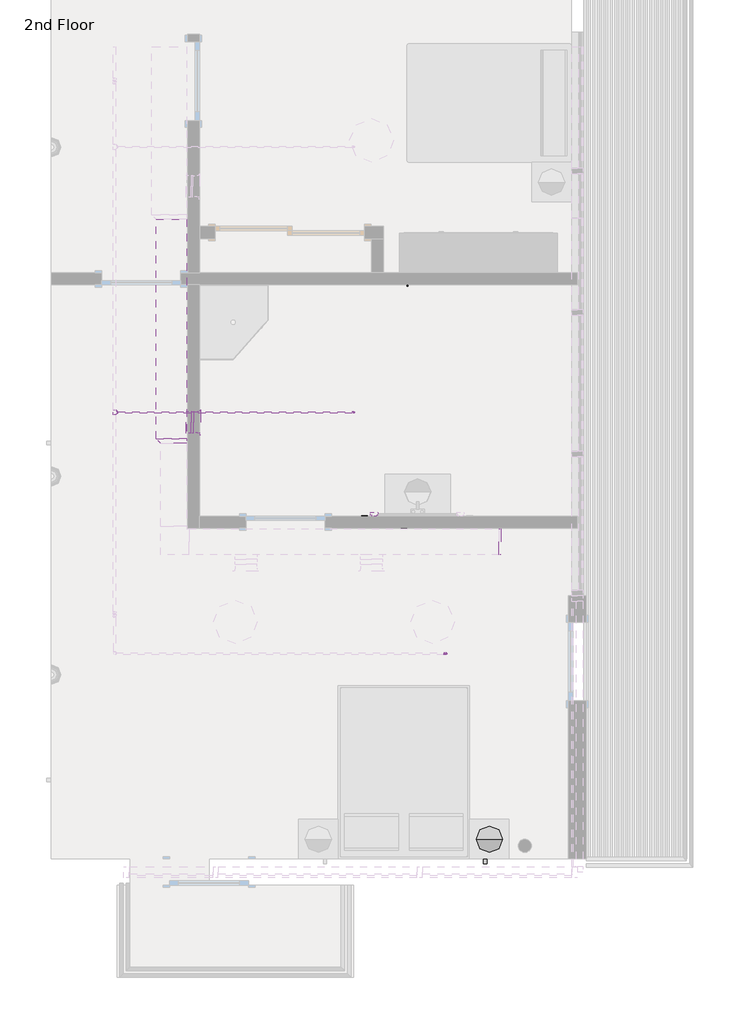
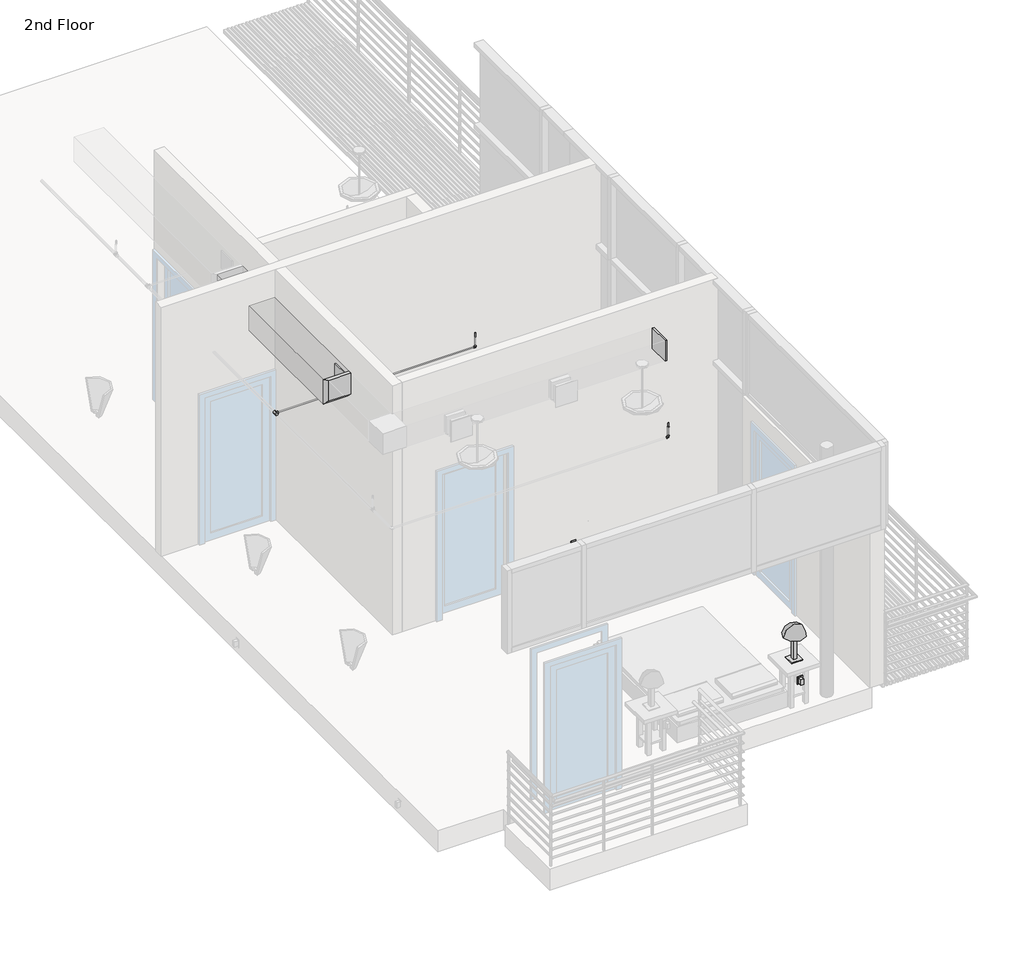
# One storey, part 3 of 7: 25 pipe segments, 22 pipe fittings, 4 proxies, 3 duct fittings, 2 duct segments, 2 fire suppression terminals, 2 light fixtures, 1 air terminal.
"""IFC4 building model written with IfcOpenShell, lengths in millimetres."""

from ifc_helpers import new_model, si_unit, point, frame, frame_2d, origin, place, context, project, spatial, polyline, circle_curve, trimmed, segment, composite_curve, outline, extrude, transform, mapped, element, save
from ifc_brep_helpers import plane_surface, cylinder_surface, advanced_brep
from components import air_terminal_37217d21, receptacle_gfci_367a9a66, rectangular_duct_endcap_standard_037dc688, rectangular_duct_takeoff_sidewall_standard_de4d9739, rectangular_duct_transition_standard_52f7afad, fire_suppression_terminal_f250fbbb, table_lamp_hemispheric_60w_120v_02721d88, bow_series_bow_series_fd234733, pipe_elbow_standard_aad62f2d, pipe_elbow1_standard_2_feaaf02c, pipe_pvc_bend_standard_4ddb6c24, pipe_pvc_bend_standard_e3b88754, pipe_pvc_bend_standard_81afda98, pipe_pvc_p_trap_standard_84067bf2, pipe_pvc_short_sanitary_tee1_standard_2_ace3c86c, pipe_pvc_transition_eccentric1_standard_2_8e0969e4, pipe_tee_standard_1a6ca384, pipe_tee_standard_feafe2f1, pipe_transition_eccentric_standard_3095b3c8, pipe_transition_eccentric_standard_a9eec213

model = new_model("IFC4")

# Units and contexts
model_context = context("Model", 3, world=origin())
ifc_project = project(units=[si_unit("LENGTHUNIT", "METRE", prefix="MILLI")], contexts=[model_context])

# Site, building, storey
site = spatial("IfcSite", under=ifc_project)
building = spatial("IfcBuilding", under=site)
storey = spatial("IfcBuildingStorey", under=building, Name="2nd Floor", Elevation=7924.8)

# Air terminal
placement = place(None, origin())
air_terminal_shape = air_terminal_37217d21(model_context)
element("IfcAirTerminal", 1, ObjectType="Sidewall Diffuser : 10\" x 10\"", at=placement, inside=storey, context=model_context, shape_type="MappedRepresentation", body=[
    mapped(air_terminal_shape, transform((-2742.9604947, -1629.0689983, 10972.8), x_axis=(0.0, 1.0, 0.0), y_axis=(-1.0, 0.0, 0.0), z_axis=(0.0, 0.0, 1.0))),
])

# Proxies
receptacle_gfci_shape = receptacle_gfci_367a9a66(model_context)
element("IfcBuildingElementProxy", 2, Name="Receptacle : Standard", ObjectType="Receptacle : Standard", at=placement, inside=storey, context=model_context, shape_type="MappedRepresentation", body=[
    mapped(receptacle_gfci_shape, transform((-837.9604947, -2714.9189983, 8382.0), x_axis=(-1.0, 0.0, 0.0), y_axis=(0.0, 0.0, 1.0), z_axis=(0.0, 1.0, 0.0))),
])
element("IfcBuildingElementProxy", 3, Name="Receptacle : Standard", ObjectType="Receptacle : Standard", at=placement, inside=storey, context=model_context, shape_type="MappedRepresentation", body=[
    mapped(receptacle_gfci_shape, transform((562.1560388, -6684.540357, 8382.0), x_axis=(1.0, 0.0, 0.0), y_axis=(0.0, 0.0, -1.0), z_axis=(0.0, 1.0, 0.0))),
])
element("IfcBuildingElementProxy", 4, Name="Receptacle : Standard", ObjectType="Receptacle : Standard", at=placement, inside=storey, context=model_context, shape_type="MappedRepresentation", body=[
    mapped(receptacle_gfci_shape, transform((1527.3560388, -5617.740357, 8382.0), x_axis=(0.0, -1.0, 0.0), y_axis=(0.0, 0.0, 1.0), z_axis=(-1.0, 0.0, 0.0))),
])
element("IfcBuildingElementProxy", 5, Name="Receptacle : Standard", ObjectType="Receptacle : Standard", at=placement, inside=storey, context=model_context, shape_type="MappedRepresentation", body=[
    mapped(receptacle_gfci_shape, transform((-380.7604947, -2854.6189983, 8382.0), x_axis=(1.0, 0.0, 0.0), y_axis=(0.0, 0.0, 1.0), z_axis=(0.0, -1.0, 0.0))),
])

# Duct fittings
rectangular_duct_endcap_standard_shape = rectangular_duct_endcap_standard_037dc688(model_context)
element("IfcDuctFitting", 6, ObjectType="Rectangular Duct Endcap : Standard", at=placement, inside=storey, context=model_context, shape_type="MappedRepresentation", body=[
    mapped(rectangular_duct_endcap_standard_shape, transform((718.6069436, -3013.3689983, 11023.6), x_axis=(1.0, 0.0, 0.0), y_axis=(0.0, 1.0, 0.0), z_axis=(0.0, 0.0, 1.0))),
])
rectangular_duct_takeoff_sidewall_standard_shape = rectangular_duct_takeoff_sidewall_standard_de4d9739(model_context)
element("IfcDuctFitting", 7, ObjectType="Rectangular Duct Takeoff - Sidewall : Standard", at=placement, inside=storey, context=model_context, shape_type="MappedRepresentation", body=[
    mapped(rectangular_duct_takeoff_sidewall_standard_shape, transform((-2895.3604947, -1629.0689983, 10972.8), x_axis=(1.0, 0.0, 0.0), y_axis=(0.0, -1.0, 0.0), z_axis=(0.0, 0.0, -1.0))),
])
rectangular_duct_transition_standard_shape = rectangular_duct_transition_standard_52f7afad(model_context)
element("IfcDuctFitting", 8, ObjectType="Rectangular Duct Transition : Standard", at=placement, inside=storey, context=model_context, shape_type="MappedRepresentation", body=[
    mapped(rectangular_duct_transition_standard_shape, transform((-3073.1604947, -1819.5689983, 10998.2), x_axis=(0.0, -1.0, 0.0), y_axis=(-1.0, 0.0, 0.0), z_axis=(0.0, 0.0, -1.0))),
])

# Duct segments
element("IfcDuctSegment", 9, ObjectType="Mitered Elbows / Taps Sidewall", at=placement, inside=storey, context=model_context, shape_type="SweptSolid", body=[
    extrude(outline(polyline([(-2844.5604947, -1756.0689983), (-2844.5604947, -1502.0689983), (-2819.1604947, -1502.0689983), (-2819.1604947, -1756.0689983), (-2844.5604947, -1756.0689983)])), frame((0.0, 0.0, 10845.8), z_axis=(0.0, 0.0, 1.0), x_axis=(1.0, 0.0, 0.0)), (0.0, 0.0, 1.0), 254.0),
])
element("IfcDuctSegment", 10, ObjectType="Mitered Elbows / Tees", at=placement, inside=storey, context=model_context, shape_type="SweptSolid", body=[
    extrude(outline(polyline([(-3250.9604947, 720.4310017), (-2895.3604947, 720.4310017), (-2895.3604947, -1819.5689983), (-3250.9604947, -1819.5689983), (-3250.9604947, 720.4310017)])), frame((0.0, 0.0, 10820.4), z_axis=(0.0, 0.0, 1.0), x_axis=(1.0, 0.0, 0.0)), (0.0, 0.0, 1.0), 355.6),
])

# Fire suppression terminals
fire_suppression_terminal_shape = fire_suppression_terminal_f250fbbb(model_context)
element("IfcFireSuppressionTerminal", 11, ObjectType="Sprinkler - Upright : 1/2\" Upright", at=placement, inside=storey, context=model_context, shape_type="MappedRepresentation", body=[
    mapped(fire_suppression_terminal_shape, transform((104.9560388, -4308.7689983, 10820.4), x_axis=(1.0, 0.0, 0.0), y_axis=(0.0, 1.0, 0.0), z_axis=(0.0, 0.0, 1.0))),
])
element("IfcFireSuppressionTerminal", 12, ObjectType="Sprinkler - Upright : 1/2\" Upright", at=placement, inside=storey, context=model_context, shape_type="MappedRepresentation", body=[
    mapped(fire_suppression_terminal_shape, transform((-961.8439612, -1514.6424327, 10820.4), x_axis=(1.0, 0.0, 0.0), y_axis=(0.0, 1.0, 0.0), z_axis=(0.0, 0.0, 1.0))),
])

# Light fixtures
table_lamp_hemispheric_60w_120v_shape = table_lamp_hemispheric_60w_120v_02721d88(model_context)
element("IfcLightFixture", 13, ObjectType="Table Lamp - Hemispheric : 60W - 120V", at=placement, inside=storey, context=model_context, shape_type="MappedRepresentation", body=[
    mapped(table_lamp_hemispheric_60w_120v_shape, transform((609.8395053, -6455.940357, 8521.7), x_axis=(1.0, 0.0, 0.0), y_axis=(0.0, 1.0, 0.0), z_axis=(0.0, 0.0, 1.0))),
])
bow_series_bow_series_shape = bow_series_bow_series_fd234733(model_context)
element("IfcLightFixture", 14, ObjectType="bow series : bow series", at=placement, inside=storey, context=model_context, shape_type="MappedRepresentation", body=[
    mapped(bow_series_bow_series_shape, transform((-724.5190612, -2679.1938983, 9144.0), x_axis=(-1.0, 0.0, 0.0), y_axis=(0.0, -1.0, 0.0), z_axis=(0.0, 0.0, 1.0))),
])

# Pipe fittings
pipe_elbow_standard_shape = pipe_elbow_standard_aad62f2d(model_context)
element("IfcPipeFitting", 15, ObjectType="Pipe Elbow : Standard", at=placement, inside=storey, context=model_context, shape_type="MappedRepresentation", body=[
    mapped(pipe_elbow_standard_shape, transform((-322.9107885, -2761.2999309, 8610.6), x_axis=(0.0, -1.0, 0.0), y_axis=(0.0, 0.0, -1.0), z_axis=(1.0, 0.0, 0.0))),
])
element("IfcPipeFitting", 16, ObjectType="Pipe Elbow1 : Standard 2", at=placement, inside=storey, context=model_context, shape_type="MappedRepresentation", body=[
    mapped(pipe_elbow_standard_shape, transform((-961.8439612, -1514.6424327, 10668.0), x_axis=(0.0, 0.0, -1.0), y_axis=(-1.0, 0.0, 0.0), z_axis=(0.0, 1.0, 0.0))),
])
pipe_elbow1_standard_2_shape = pipe_elbow1_standard_2_feaaf02c(model_context)
element("IfcPipeFitting", 17, ObjectType="Pipe Elbow1 : Standard 2", at=placement, inside=storey, context=model_context, shape_type="MappedRepresentation", body=[
    mapped(pipe_elbow1_standard_2_shape, transform((104.9560388, -4308.7689983, 10668.0), x_axis=(0.0, 0.0, -1.0), y_axis=(-1.0, 0.0, 0.0), z_axis=(0.0, 1.0, 0.0))),
])
pipe_pvc_bend_standard_shape = pipe_pvc_bend_standard_4ddb6c24(model_context)
element("IfcPipeFitting", 18, ObjectType="Pipe PVC Bend : Standard", at=placement, inside=storey, context=model_context, shape_type="MappedRepresentation", body=[
    mapped(pipe_pvc_bend_standard_shape, transform((-969.7619391, -481.6340464, 7449.4767229), x_axis=(0.9999457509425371, 0.0, 0.010416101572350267), y_axis=(-0.010416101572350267, 0.0, 0.9999457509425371), z_axis=(0.0, -1.0, 0.0))),
])
element("IfcPipeFitting", 19, ObjectType="Pipe PVC Bend : Standard", at=placement, inside=storey, context=model_context, shape_type="MappedRepresentation", body=[
    mapped(pipe_pvc_bend_standard_shape, transform((-858.2942258, -481.6340464, 7562.1116056), x_axis=(0.7034144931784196, 0.0, 0.7107798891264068), y_axis=(0.7107798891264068, 0.0, -0.7034144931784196), z_axis=(0.0, 1.0, 0.0))),
])
pipe_pvc_bend_standard_2_shape = pipe_pvc_bend_standard_e3b88754(model_context)
element("IfcPipeFitting", 20, ObjectType="Pipe PVC Bend : Standard", at=placement, inside=storey, context=model_context, shape_type="MappedRepresentation", body=[
    mapped(pipe_pvc_bend_standard_2_shape, transform((-221.3107836, -2435.4342787, 7477.6672389), x_axis=(0.0, 0.0, -1.0), y_axis=(-1.0, 0.0, 0.0), z_axis=(0.0, 1.0, 0.0))),
])
pipe_pvc_bend_standard_3_shape = pipe_pvc_bend_standard_81afda98(model_context)
element("IfcPipeFitting", 21, ObjectType="Pipe PVC Bend : Standard", at=placement, inside=storey, context=model_context, shape_type="MappedRepresentation", body=[
    mapped(pipe_pvc_bend_standard_3_shape, transform((-968.7575713, -2148.4074929, 7468.2343088), x_axis=(0.9997831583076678, 8.132927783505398e-07, 0.02082393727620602), y_axis=(-0.02082393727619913, -1.6939738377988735e-08, 0.9997831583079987), z_axis=(8.134691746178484e-07, -0.9999999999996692, 0.0))),
])
element("IfcPipeFitting", 22, ObjectType="Pipe PVC Bend : Standard", at=placement, inside=storey, context=model_context, shape_type="MappedRepresentation", body=[
    mapped(pipe_pvc_bend_standard_3_shape, transform((-877.1721277, -2148.4074184, 7561.7471994), x_axis=(0.6997056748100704, 5.69188886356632e-07, 0.714431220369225), y_axis=(0.7144312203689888, 5.811677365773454e-07, -0.699705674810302), z_axis=(-8.134690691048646e-07, 0.9999999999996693, 0.0))),
])
pipe_pvc_p_trap_standard_shape = pipe_pvc_p_trap_standard_84067bf2(model_context)
element("IfcPipeFitting", 23, ObjectType="Pipe PVC P-Trap : Standard", at=placement, inside=storey, context=model_context, shape_type="MappedRepresentation", body=[
    mapped(pipe_pvc_p_trap_standard_shape, transform((-212.8482555, -481.6450454, 7566.025), x_axis=(1.0, 0.0, 0.0), y_axis=(0.0, 1.0, 0.0), z_axis=(0.0, 0.0, 1.0))),
])
pipe_pvc_short_sanitary_tee1_standard_2_shape = pipe_pvc_short_sanitary_tee1_standard_2_ace3c86c(model_context)
element("IfcPipeFitting", 24, ObjectType="Pipe PVC Short Sanitary Tee1 : Standard 2", at=placement, inside=storey, context=model_context, shape_type="MappedRepresentation", body=[
    mapped(pipe_pvc_short_sanitary_tee1_standard_2_shape, transform((-1102.7042057, -481.6340464, 7448.0919076), x_axis=(0.0, -0.999945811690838, 0.010410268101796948), y_axis=(0.9999457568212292, 0.00010842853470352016, 0.01041497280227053), z_axis=(-0.010415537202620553, 0.01040970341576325, 0.9998915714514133))),
])
pipe_pvc_transition_eccentric1_standard_2_shape = pipe_pvc_transition_eccentric1_standard_2_8e0969e4(model_context)
element("IfcPipeFitting", 25, ObjectType="Pipe PVC Transition Eccentric1 : Standard 2", at=placement, inside=storey, context=model_context, shape_type="MappedRepresentation", body=[
    mapped(pipe_pvc_transition_eccentric1_standard_2_shape, transform((-844.2144215, -53.745698, 7213.6), x_axis=(0.0, 1.0, 0.0), y_axis=(1.0, 0.0, 0.0), z_axis=(0.0, 0.0, -1.0))),
])
pipe_tee_standard_shape = pipe_tee_standard_1a6ca384(model_context)
element("IfcPipeFitting", 26, ObjectType="Pipe Tee : Standard", at=placement, inside=storey, context=model_context, shape_type="MappedRepresentation", body=[
    mapped(pipe_tee_standard_shape, transform((-119.7107885, -2786.7000325, 7315.2), x_axis=(1.0, 0.0, 0.0), y_axis=(0.0, 0.0, -1.0), z_axis=(0.0, 1.0, 0.0))),
])
element("IfcPipeFitting", 27, ObjectType="Pipe Tee : Standard", at=placement, inside=storey, context=model_context, shape_type="MappedRepresentation", body=[
    mapped(pipe_tee_standard_shape, transform((-3260.5439612, -503.5931552, 7213.6), x_axis=(0.0, -1.0, 0.0), y_axis=(0.0, 0.0, 1.0), z_axis=(-1.0, 0.0, 0.0))),
])
element("IfcPipeFitting", 28, ObjectType="Pipe Tee : Standard", at=placement, inside=storey, context=model_context, shape_type="MappedRepresentation", body=[
    mapped(pipe_tee_standard_shape, transform((-3324.0439612, -706.809107, 7315.2), x_axis=(0.0, -1.0, 0.0), y_axis=(0.0, 0.0, 1.0), z_axis=(-1.0, 0.0, 0.0))),
])
pipe_tee_standard_2_shape = pipe_tee_standard_feafe2f1(model_context)
element("IfcPipeFitting", 29, ObjectType="Pipe Tee : Standard", at=placement, inside=storey, context=model_context, shape_type="MappedRepresentation", body=[
    mapped(pipe_tee_standard_2_shape, transform((-322.9107885, -2761.2999309, 7213.6), x_axis=(1.0, 0.0, 0.0), y_axis=(0.0, 0.0, -1.0), z_axis=(0.0, 1.0, 0.0))),
])
element("IfcPipeFitting", 30, ObjectType="Pipe Tee : Standard", at=placement, inside=storey, context=model_context, shape_type="MappedRepresentation", body=[
    mapped(pipe_tee_standard_2_shape, transform((-733.8514215, -2786.7000325, 7315.2), x_axis=(1.0, 0.0, 0.0), y_axis=(0.0, 1.0, 0.0), z_axis=(0.0, 0.0, 1.0))),
])
element("IfcPipeFitting", 31, ObjectType="Pipe Tee : Standard", at=placement, inside=storey, context=model_context, shape_type="MappedRepresentation", body=[
    mapped(pipe_tee_standard_2_shape, transform((-3733.5604947, -1514.6424327, 10668.0), x_axis=(0.0, -1.0, 0.0), y_axis=(-1.0, 0.0, 0.0), z_axis=(0.0, 0.0, -1.0))),
])
pipe_transition_eccentric_standard_shape = pipe_transition_eccentric_standard_3095b3c8(model_context)
element("IfcPipeFitting", 32, ObjectType="Pipe Transition Eccentric : Standard", at=placement, inside=storey, context=model_context, shape_type="MappedRepresentation", body=[
    mapped(pipe_transition_eccentric_standard_shape, transform((-292.7482885, -2761.2999309, 7213.6), x_axis=(1.0, 0.0, 0.0), y_axis=(0.0, 1.0, 0.0), z_axis=(0.0, 0.0, 1.0))),
])
element("IfcPipeFitting", 33, ObjectType="Pipe Transition Eccentric : Standard", at=placement, inside=storey, context=model_context, shape_type="MappedRepresentation", body=[
    mapped(pipe_transition_eccentric_standard_shape, transform((-322.9107885, -2761.2999309, 7243.7625), x_axis=(0.0, 0.0, 1.0), y_axis=(-1.0, 0.0, 0.0), z_axis=(0.0, -1.0, 0.0))),
])
element("IfcPipeFitting", 34, ObjectType="Pipe Transition Eccentric : Standard", at=placement, inside=storey, context=model_context, shape_type="MappedRepresentation", body=[
    mapped(pipe_transition_eccentric_standard_shape, transform((-703.6889215, -2786.7000325, 7315.2), x_axis=(1.0, 0.0, 0.0), y_axis=(0.0, 1.0, 0.0), z_axis=(0.0, 0.0, 1.0))),
])
element("IfcPipeFitting", 35, ObjectType="Pipe Transition Eccentric : Standard", at=placement, inside=storey, context=model_context, shape_type="MappedRepresentation", body=[
    mapped(pipe_transition_eccentric_standard_shape, transform((-3703.3979947, -1514.6424327, 10668.0), x_axis=(1.0, 0.0, 0.0), y_axis=(0.0, -1.0, 0.0), z_axis=(0.0, 0.0, -1.0))),
])
pipe_transition_eccentric_standard_2_shape = pipe_transition_eccentric_standard_a9eec213(model_context)
element("IfcPipeFitting", 36, ObjectType="Pipe Transition Eccentric : Standard", at=placement, inside=storey, context=model_context, shape_type="MappedRepresentation", body=[
    mapped(pipe_transition_eccentric_standard_2_shape, transform((104.9560388, -4308.7689983, 10820.4), x_axis=(0.0, 0.0, -1.0), y_axis=(-1.0, 0.0, 0.0), z_axis=(0.0, 1.0, 0.0))),
])

# Pipe segments
element("IfcPipeSegment", 37, ObjectType="PVC", at=placement, inside=storey, context=model_context, shape_type="SweptSolid", body=[
    extrude(outline(composite_curve([segment(trimmed(circle_curve(frame_2d((0.0, -24.13)), 24.13), [point((-0.0009426, 0.0))], [point((24.13, -24.1290574))], False, "CARTESIAN"), True, "CONTINUOUS"), segment(trimmed(circle_curve(frame_2d((0.0, -24.13)), 24.13), [point((24.13, -24.1290574))], [point((0.0009426, -48.26))], False, "CARTESIAN"), True, "CONTINUOUS"), segment(trimmed(circle_curve(frame_2d((0.0, -24.13)), 24.13), [point((0.0009426, -48.26))], [point((-24.13, -24.1309426))], False, "CARTESIAN"), True, "CONTINUOUS"), segment(trimmed(circle_curve(frame_2d((0.0, -24.13)), 24.13), [point((-24.13, -24.1309426))], [point((-0.0009426, 0.0))], False, "CARTESIAN"), True, "CONTINUOUS")], self_intersect=False)), frame((-860.8485474, -2124.2774051, 7562.086247), z_axis=(0.9997831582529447, 8.132926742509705e-07, 0.020823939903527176), x_axis=(0.020823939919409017, -3.904718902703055e-05, -0.999783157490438)), (0.0, 0.0, 1.0), 1872.7708609),
])
element("IfcPipeSegment", 38, ObjectType="PVC", at=placement, inside=storey, context=model_context, shape_type="SweptSolid", body=[
    extrude(outline(composite_curve([segment(trimmed(circle_curve(frame_2d((7213.6, -937.0514215)), 16.7005), [point((7213.6, -920.3509215))], [point((7230.3005, -937.0514215))], False, "CARTESIAN"), True, "CONTINUOUS"), segment(trimmed(circle_curve(frame_2d((7213.6, -937.0514215)), 16.7005), [point((7230.3005, -937.0514215))], [point((7213.6, -953.7519215))], False, "CARTESIAN"), True, "CONTINUOUS"), segment(trimmed(circle_curve(frame_2d((7213.6, -937.0514215)), 16.7005), [point((7213.6, -953.7519215))], [point((7196.8995, -937.0514215))], False, "CARTESIAN"), True, "CONTINUOUS"), segment(trimmed(circle_curve(frame_2d((7213.6, -937.0514215)), 16.7005), [point((7196.8995, -937.0514215))], [point((7213.6, -920.3509215))], False, "CARTESIAN"), True, "CONTINUOUS")], self_intersect=False)), frame((0.0, -2731.1374309, 0.0), z_axis=(0.0, 1.0, 0.0), x_axis=(0.0, 0.0, 1.0)), (0.0, 0.0, 1.0), 2677.3917329),
])
element("IfcPipeSegment", 39, ObjectType="PVC", at=placement, inside=storey, context=model_context, shape_type="SweptSolid", body=[
    extrude(outline(composite_curve([segment(trimmed(circle_curve(frame_2d((0.0, -21.082)), 21.082), [point((-0.1122461, -0.0002988))], [point((21.0817011, -20.969754))], False, "CARTESIAN"), True, "CONTINUOUS"), segment(trimmed(circle_curve(frame_2d((0.0, -21.082)), 21.082), [point((21.0817011, -20.969754))], [point((0.112246, -42.1637012))], False, "CARTESIAN"), True, "CONTINUOUS"), segment(trimmed(circle_curve(frame_2d((0.0, -21.082)), 21.082), [point((0.112246, -42.1637012))], [point((-21.0817012, -21.1942461))], False, "CARTESIAN"), True, "CONTINUOUS"), segment(trimmed(circle_curve(frame_2d((0.0, -21.082)), 21.082), [point((-21.0817012, -21.1942461))], [point((-0.1122461, -0.0002988))], False, "CARTESIAN"), True, "CONTINUOUS")], self_intersect=False)), frame((-1065.7511929, -2414.3976445, 7468.7079806), z_axis=(0.9999451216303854, 5.578183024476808e-05, 0.010476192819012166), x_axis=(0.010476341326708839, -0.005324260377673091, -0.9999309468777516)), (0.0, 0.0, 1.0), 807.9149151),
])
element("IfcPipeSegment", 40, ObjectType="PVC", at=placement, inside=storey, context=model_context, shape_type="SweptSolid", body=[
    extrude(outline(composite_curve([segment(trimmed(circle_curve(frame_2d((-212.8482555, -481.6450454)), 44.45), [point((-212.8482555, -437.1950454))], [point((-168.3982555, -481.6450454))], False, "CARTESIAN"), True, "CONTINUOUS"), segment(trimmed(circle_curve(frame_2d((-212.8482555, -481.6450454)), 44.45), [point((-168.3982555, -481.6450454))], [point((-212.8482555, -526.0950454))], False, "CARTESIAN"), True, "CONTINUOUS"), segment(trimmed(circle_curve(frame_2d((-212.8482555, -481.6450454)), 44.45), [point((-212.8482555, -526.0950454))], [point((-257.2982555, -481.6450454))], False, "CARTESIAN"), True, "CONTINUOUS"), segment(trimmed(circle_curve(frame_2d((-212.8482555, -481.6450454)), 44.45), [point((-257.2982555, -481.6450454))], [point((-212.8482555, -437.1950454))], False, "CARTESIAN"), True, "CONTINUOUS")], self_intersect=False)), frame((0.0, 0.0, 7540.625), z_axis=(0.0, 0.0, 1.0), x_axis=(1.0, 0.0, 0.0)), (0.0, 0.0, 1.0), 384.175),
])
element("IfcPipeSegment", 41, ObjectType="PVC", at=placement, inside=storey, context=model_context, shape_type="SweptSolid", body=[
    extrude(outline(composite_curve([segment(trimmed(circle_curve(frame_2d((1e-07, 24.13)), 24.13), [point((2.76e-05, 0.0))], [point((-24.13, 24.1299725))], False, "CARTESIAN"), True, "CONTINUOUS"), segment(trimmed(circle_curve(frame_2d((1e-07, 24.13)), 24.13), [point((-24.13, 24.1299725))], [point((-2.74e-05, 48.26))], False, "CARTESIAN"), True, "CONTINUOUS"), segment(trimmed(circle_curve(frame_2d((1e-07, 24.13)), 24.13), [point((-2.74e-05, 48.26))], [point((24.1300001, 24.1300275))], False, "CARTESIAN"), True, "CONTINUOUS"), segment(trimmed(circle_curve(frame_2d((1e-07, 24.13)), 24.13), [point((24.1300001, 24.1300275))], [point((2.76e-05, 0.0))], False, "CARTESIAN"), True, "CONTINUOUS")], self_intersect=False)), frame((-957.3333923, -2172.5374836, 7479.8989328), z_axis=(0.6997056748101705, 5.691889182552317e-07, 0.7144312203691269), x_axis=(0.7144312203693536, -5.574570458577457e-07, -0.6997056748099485)), (0.0, 0.0, 1.0), 98.2371417),
])
element("IfcPipeSegment", 42, ObjectType="PVC", at=placement, inside=storey, context=model_context, shape_type="AdvancedBrep", body=[
    advanced_brep(
    [(-1147.1542057, -529.264389, 7448.5877791), (-1102.7042057, -528.8016526, 7493.0353704), (-1058.2542057, -529.264389, 7448.5877791), (-1102.7042057, -529.7271254, 7404.1401878), (-1147.1542057, -2075.4023276, 7464.6843618), (-1102.7042057, -2075.865064, 7420.2367705), (-1058.2542057, -2075.4023276, 7464.6843618), (-1102.7042057, -2074.9395912, 7509.1319531)],
    [
        (0, 1, circle_curve(frame((-1102.7042057, -529.264389, 7448.5877791), z_axis=(0.0, 0.999945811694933, -0.010410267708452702), x_axis=(-1.0, 0.0, 0.0)), 44.45)),
        (1, 2, circle_curve(frame((-1102.7042057, -529.2643889, 7448.5877791), z_axis=(0.0, 0.999945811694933, -0.010410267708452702), x_axis=(-1.0, 0.0, 0.0)), 44.45)),
        (2, 3, circle_curve(frame((-1102.7042057, -529.264389, 7448.5877791), z_axis=(0.0, 0.999945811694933, -0.010410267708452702), x_axis=(-1.0, 0.0, 0.0)), 44.45)),
        (3, 0, circle_curve(frame((-1102.7042057, -529.264389, 7448.5877791), z_axis=(0.0, 0.999945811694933, -0.010410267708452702), x_axis=(-1.0, 0.0, 0.0)), 44.45)),
        (4, 5, circle_curve(frame((-1102.7042057, -2075.4023276, 7464.6843612), z_axis=(0.0, -0.999945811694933, 0.010410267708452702), x_axis=(-1.0, 0.0, 0.0)), 44.45)),
        (5, 6, circle_curve(frame((-1102.7042057, -2075.4023276, 7464.6843612), z_axis=(0.0, -0.999945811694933, 0.010410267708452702), x_axis=(-1.0, 0.0, 0.0)), 44.4499994)),
        (6, 7, circle_curve(frame((-1102.7042057, -2075.4023276, 7464.6843612), z_axis=(0.0, -0.999945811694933, 0.010410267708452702), x_axis=(-1.0, 0.0, 0.0)), 44.45)),
        (7, 4, circle_curve(frame((-1102.7042057, -2075.4023276, 7464.6843612), z_axis=(0.0, -0.999945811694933, 0.010410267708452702), x_axis=(-1.0, 0.0, 0.0)), 44.4500006)),
        (0, 4),
        (7, 1),
        (6, 2),
        (5, 3),
    ],
    [
        plane_surface(frame((-1102.7042057, -529.7271254, 7404.1401878), z_axis=(0.0, 0.999945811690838, -0.010410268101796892), x_axis=(1.0, 0.0, 0.0))),
        plane_surface(frame((-1102.7042057, -2075.865064, 7420.2367705), z_axis=(0.0, -0.999945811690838, 0.010410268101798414), x_axis=(1.0, 0.0, 0.0))),
        cylinder_surface(frame((-1102.7042057, -529.264389, 7448.5877791), z_axis=(0.0, 0.999945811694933, -0.010410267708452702), x_axis=(-1.0, 0.0, 0.0)), 44.45),
    ],
    [
        (0, [[1, 2, 3, 4]]),
        (1, [[5, 6, 7, 8]]),
        (2, [[-1, 9, -8, 10]]),
        (2, [[-2, -10, -7, 11]]),
        (2, [[-3, -11, -6, 12]]),
        (2, [[-4, -12, -5, -9]]),
    ],
),
])
element("IfcPipeSegment", 43, ObjectType="PVC", at=placement, inside=storey, context=model_context, shape_type="SweptSolid", body=[
    extrude(outline(composite_curve([segment(trimmed(circle_curve(frame_2d((0.0, 44.45)), 44.45), [point((0.0, 0.0))], [point((-44.45, 44.45))], False, "CARTESIAN"), True, "CONTINUOUS"), segment(trimmed(circle_curve(frame_2d((0.0, 44.45)), 44.45), [point((-44.45, 44.45))], [point((0.0, 88.9))], False, "CARTESIAN"), True, "CONTINUOUS"), segment(trimmed(circle_curve(frame_2d((0.0, 44.45)), 44.45), [point((0.0, 88.9))], [point((44.45, 44.45))], False, "CARTESIAN"), True, "CONTINUOUS"), segment(trimmed(circle_curve(frame_2d((0.0, 44.45)), 44.45), [point((44.45, 44.45))], [point((0.0, 0.0))], False, "CARTESIAN"), True, "CONTINUOUS")], self_intersect=False)), frame((-833.4919835, -526.0840464, 7562.3699598), z_axis=(0.9999457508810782, 0.0, 0.010416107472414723), x_axis=(0.010416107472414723, 0.0, -0.9999457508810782)), (0.0, 0.0, 1.0), 417.4608192),
])
element("IfcPipeSegment", 44, ObjectType="PVC", at=placement, inside=storey, context=model_context, shape_type="SweptSolid", body=[
    extrude(outline(composite_curve([segment(trimmed(circle_curve(frame_2d((0.0, 44.45)), 44.45), [point((-44.4475916, 44.9127113))], [point((0.4627113, 88.8975916))], False, "CARTESIAN"), True, "CONTINUOUS"), segment(trimmed(circle_curve(frame_2d((0.0, 44.45)), 44.45), [point((0.4627113, 88.8975916))], [point((44.4475915, 43.9872887))], False, "CARTESIAN"), True, "CONTINUOUS"), segment(trimmed(circle_curve(frame_2d((0.0, 44.45)), 44.45), [point((44.4475915, 43.9872887))], [point((-0.4627114, 0.0024084))], False, "CARTESIAN"), True, "CONTINUOUS"), segment(trimmed(circle_curve(frame_2d((0.0, 44.45)), 44.45), [point((-0.4627114, 0.0024084))], [point((-44.4475916, 44.9127113))], False, "CARTESIAN"), True, "CONTINUOUS")], self_intersect=False)), frame((-1029.6910848, -526.0840464, 7448.852461), z_axis=(0.9999457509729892, 0.0, 0.010416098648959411), x_axis=(0.010416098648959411, 0.0, -0.9999457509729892)), (0.0, 0.0, 1.0), 35.1288091),
])
element("IfcPipeSegment", 45, ObjectType="PVC", at=placement, inside=storey, context=model_context, shape_type="SweptSolid", body=[
    extrude(outline(composite_curve([segment(trimmed(circle_curve(frame_2d((0.0, 44.45)), 44.45), [point((0.0, 0.0))], [point((-44.45, 44.45))], False, "CARTESIAN"), True, "CONTINUOUS"), segment(trimmed(circle_curve(frame_2d((0.0, 44.45)), 44.45), [point((-44.45, 44.45))], [point((0.0, 88.9))], False, "CARTESIAN"), True, "CONTINUOUS"), segment(trimmed(circle_curve(frame_2d((0.0, 44.45)), 44.45), [point((0.0, 88.9))], [point((44.4499999, 44.45))], False, "CARTESIAN"), True, "CONTINUOUS"), segment(trimmed(circle_curve(frame_2d((0.0, 44.45)), 44.45), [point((44.4499999, 44.45))], [point((0.0, 0.0))], False, "CARTESIAN"), True, "CONTINUOUS")], self_intersect=False)), frame((-952.3147359, -526.0840464, 7467.1066143), z_axis=(0.7034144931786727, 0.0, 0.7107798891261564), x_axis=(0.7107798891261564, 0.0, -0.7034144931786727)), (0.0, 0.0, 1.0), 108.8594388),
])
element("IfcPipeSegment", 46, ObjectType="Standard", at=placement, inside=storey, context=model_context, shape_type="SweptSolid", body=[
    extrude(outline(composite_curve([segment(trimmed(circle_curve(frame_2d((7315.2, -1039.2875177)), 14.2875), [point((7315.2, -1025.0000177))], [point((7329.4875, -1039.2875177))], False, "CARTESIAN"), True, "CONTINUOUS"), segment(trimmed(circle_curve(frame_2d((7315.2, -1039.2875177)), 14.2875), [point((7329.4875, -1039.2875177))], [point((7315.2, -1053.5750177))], False, "CARTESIAN"), True, "CONTINUOUS"), segment(trimmed(circle_curve(frame_2d((7315.2, -1039.2875177)), 14.2875), [point((7315.2, -1053.5750177))], [point((7300.9125, -1039.2875177))], False, "CARTESIAN"), True, "CONTINUOUS"), segment(trimmed(circle_curve(frame_2d((7315.2, -1039.2875177)), 14.2875), [point((7300.9125, -1039.2875177))], [point((7315.2, -1025.0000177))], False, "CARTESIAN"), True, "CONTINUOUS")], self_intersect=False)), frame((0.0, -2762.8875325, 0.0), z_axis=(0.0, 1.0, 0.0), x_axis=(0.0, 0.0, 1.0)), (0.0, 0.0, 1.0), 2781.4701304),
])
element("IfcPipeSegment", 47, ObjectType="Standard", at=placement, inside=storey, context=model_context, shape_type="SweptSolid", body=[
    extrude(outline(composite_curve([segment(trimmed(circle_curve(frame_2d((-322.9107885, -2761.2999309)), 7.9375), [point((-330.8482885, -2761.2999309))], [point((-322.9107885, -2753.3624309))], False, "CARTESIAN"), True, "CONTINUOUS"), segment(trimmed(circle_curve(frame_2d((-322.9107885, -2761.2999309)), 7.9375), [point((-322.9107885, -2753.3624309))], [point((-314.9732885, -2761.2999309))], False, "CARTESIAN"), True, "CONTINUOUS"), segment(trimmed(circle_curve(frame_2d((-322.9107885, -2761.2999309)), 7.9375), [point((-314.9732885, -2761.2999309))], [point((-322.9107885, -2769.2374309))], False, "CARTESIAN"), True, "CONTINUOUS"), segment(trimmed(circle_curve(frame_2d((-322.9107885, -2761.2999309)), 7.9375), [point((-322.9107885, -2769.2374309))], [point((-330.8482885, -2761.2999309))], False, "CARTESIAN"), True, "CONTINUOUS")], self_intersect=False)), frame((0.0, 0.0, 7250.90625), z_axis=(0.0, 0.0, 1.0), x_axis=(1.0, 0.0, 0.0)), (0.0, 0.0, 1.0), 1342.23125),
])
element("IfcPipeSegment", 48, ObjectType="Standard", at=placement, inside=storey, context=model_context, shape_type="SweptSolid", body=[
    extrude(outline(composite_curve([segment(trimmed(circle_curve(frame_2d((-2761.2999309, 7213.6)), 14.2875), [point((-2775.5874309, 7213.6))], [point((-2761.2999309, 7227.8875))], False, "CARTESIAN"), True, "CONTINUOUS"), segment(trimmed(circle_curve(frame_2d((-2761.2999309, 7213.6)), 14.2875), [point((-2761.2999309, 7227.8875))], [point((-2747.0124309, 7213.6))], False, "CARTESIAN"), True, "CONTINUOUS"), segment(trimmed(circle_curve(frame_2d((-2761.2999309, 7213.6)), 14.2875), [point((-2747.0124309, 7213.6))], [point((-2761.2999309, 7199.3125))], False, "CARTESIAN"), True, "CONTINUOUS"), segment(trimmed(circle_curve(frame_2d((-2761.2999309, 7213.6)), 14.2875), [point((-2761.2999309, 7199.3125))], [point((-2775.5874309, 7213.6))], False, "CARTESIAN"), True, "CONTINUOUS")], self_intersect=False)), frame((-906.8889585, 0.0, 0.0), z_axis=(1.0, 0.0, 0.0), x_axis=(0.0, 1.0, 0.0)), (0.0, 0.0, 1.0), 553.81567),
])
element("IfcPipeSegment", 49, ObjectType="Standard", at=placement, inside=storey, context=model_context, shape_type="SweptSolid", body=[
    extrude(outline(composite_curve([segment(trimmed(circle_curve(frame_2d((8185.15, 949.8952272)), 7.9375), [point((8185.15, 941.9577272))], [point((8177.2125, 949.8952272))], False, "CARTESIAN"), True, "CONTINUOUS"), segment(trimmed(circle_curve(frame_2d((8185.15, 949.8952272)), 7.9375), [point((8177.2125, 949.8952272))], [point((8185.15, 957.8327272))], False, "CARTESIAN"), True, "CONTINUOUS"), segment(trimmed(circle_curve(frame_2d((8185.15, 949.8952272)), 7.9375), [point((8185.15, 957.8327272))], [point((8193.0875, 949.8952272))], False, "CARTESIAN"), True, "CONTINUOUS"), segment(trimmed(circle_curve(frame_2d((8185.15, 949.8952272)), 7.9375), [point((8193.0875, 949.8952272))], [point((8185.15, 941.9577272))], False, "CARTESIAN"), True, "CONTINUOUS")], self_intersect=False)), frame((0.0, -2743.8374309, 0.0), z_axis=(0.0, 1.0, 0.0), x_axis=(0.0, 0.0, 1.0)), (0.0, 0.0, 1.0), 28.9186419),
])
element("IfcPipeSegment", 50, ObjectType="Standard", at=placement, inside=storey, context=model_context, shape_type="SweptSolid", body=[
    extrude(outline(composite_curve([segment(trimmed(circle_curve(frame_2d((949.8952272, -2761.2999309)), 7.9375), [point((941.9577272, -2761.2999309))], [point((949.8952272, -2753.3624309))], False, "CARTESIAN"), True, "CONTINUOUS"), segment(trimmed(circle_curve(frame_2d((949.8952272, -2761.2999309)), 7.9375), [point((949.8952272, -2753.3624309))], [point((957.8327272, -2761.2999309))], False, "CARTESIAN"), True, "CONTINUOUS"), segment(trimmed(circle_curve(frame_2d((949.8952272, -2761.2999309)), 7.9375), [point((957.8327272, -2761.2999309))], [point((949.8952272, -2769.2374309))], False, "CARTESIAN"), True, "CONTINUOUS"), segment(trimmed(circle_curve(frame_2d((949.8952272, -2761.2999309)), 7.9375), [point((949.8952272, -2769.2374309))], [point((941.9577272, -2761.2999309))], False, "CARTESIAN"), True, "CONTINUOUS")], self_intersect=False)), frame((0.0, 0.0, 7231.0625), z_axis=(0.0, 0.0, 1.0), x_axis=(1.0, 0.0, 0.0)), (0.0, 0.0, 1.0), 936.625),
])
element("IfcPipeSegment", 51, ObjectType="Standard", at=placement, inside=storey, context=model_context, shape_type="SweptSolid", body=[
    extrude(outline(composite_curve([segment(trimmed(circle_curve(frame_2d((7315.2, -3324.0439612)), 7.9375), [point((7315.2, -3316.1064612))], [point((7323.1375, -3324.0439612))], False, "CARTESIAN"), True, "CONTINUOUS"), segment(trimmed(circle_curve(frame_2d((7315.2, -3324.0439612)), 7.9375), [point((7323.1375, -3324.0439612))], [point((7315.2, -3331.9814612))], False, "CARTESIAN"), True, "CONTINUOUS"), segment(trimmed(circle_curve(frame_2d((7315.2, -3324.0439612)), 7.9375), [point((7315.2, -3331.9814612))], [point((7307.2625, -3324.0439612))], False, "CARTESIAN"), True, "CONTINUOUS"), segment(trimmed(circle_curve(frame_2d((7315.2, -3324.0439612)), 7.9375), [point((7307.2625, -3324.0439612))], [point((7315.2, -3316.1064612))], False, "CARTESIAN"), True, "CONTINUOUS")], self_intersect=False)), frame((0.0, -682.996607, 0.0), z_axis=(0.0, 1.0, 0.0), x_axis=(0.0, 0.0, 1.0)), (0.0, 0.0, 1.0), 714.279205),
])
element("IfcPipeSegment", 52, ObjectType="Standard", at=placement, inside=storey, context=model_context, shape_type="SweptSolid", body=[
    extrude(outline(composite_curve([segment(trimmed(circle_curve(frame_2d((7213.6, -3260.5439612)), 7.9375), [point((7213.6, -3252.6064612))], [point((7221.5375, -3260.5439612))], False, "CARTESIAN"), True, "CONTINUOUS"), segment(trimmed(circle_curve(frame_2d((7213.6, -3260.5439612)), 7.9375), [point((7221.5375, -3260.5439612))], [point((7213.6, -3268.4814612))], False, "CARTESIAN"), True, "CONTINUOUS"), segment(trimmed(circle_curve(frame_2d((7213.6, -3260.5439612)), 7.9375), [point((7213.6, -3268.4814612))], [point((7205.6625, -3260.5439612))], False, "CARTESIAN"), True, "CONTINUOUS"), segment(trimmed(circle_curve(frame_2d((7213.6, -3260.5439612)), 7.9375), [point((7205.6625, -3260.5439612))], [point((7213.6, -3252.6064612))], False, "CARTESIAN"), True, "CONTINUOUS")], self_intersect=False)), frame((0.0, -479.7806552, 0.0), z_axis=(0.0, 1.0, 0.0), x_axis=(0.0, 0.0, 1.0)), (0.0, 0.0, 1.0), 471.6763344),
])
element("IfcPipeSegment", 53, ObjectType="Standard", at=placement, inside=storey, context=model_context, shape_type="SweptSolid", body=[
    extrude(outline(composite_curve([segment(trimmed(circle_curve(frame_2d((-2786.7000325, 7315.2)), 14.2875), [point((-2800.9875325, 7315.2))], [point((-2786.7000325, 7329.4875))], False, "CARTESIAN"), True, "CONTINUOUS"), segment(trimmed(circle_curve(frame_2d((-2786.7000325, 7315.2)), 14.2875), [point((-2786.7000325, 7329.4875))], [point((-2772.4125325, 7315.2))], False, "CARTESIAN"), True, "CONTINUOUS"), segment(trimmed(circle_curve(frame_2d((-2786.7000325, 7315.2)), 14.2875), [point((-2772.4125325, 7315.2))], [point((-2786.7000325, 7300.9125))], False, "CARTESIAN"), True, "CONTINUOUS"), segment(trimmed(circle_curve(frame_2d((-2786.7000325, 7315.2)), 14.2875), [point((-2786.7000325, 7300.9125))], [point((-2800.9875325, 7315.2))], False, "CARTESIAN"), True, "CONTINUOUS")], self_intersect=False)), frame((-1015.4750177, 0.0, 0.0), z_axis=(1.0, 0.0, 0.0), x_axis=(0.0, 1.0, 0.0)), (0.0, 0.0, 1.0), 251.4610961),
])
element("IfcPipeSegment", 54, ObjectType="Standard", at=placement, inside=storey, context=model_context, shape_type="SweptSolid", body=[
    extrude(outline(composite_curve([segment(trimmed(circle_curve(frame_2d((7213.6, -3260.5439612)), 7.9375), [point((7213.6, -3268.4814612))], [point((7205.6625, -3260.5439612))], False, "CARTESIAN"), True, "CONTINUOUS"), segment(trimmed(circle_curve(frame_2d((7213.6, -3260.5439612)), 7.9375), [point((7205.6625, -3260.5439612))], [point((7213.6, -3252.6064612))], False, "CARTESIAN"), True, "CONTINUOUS"), segment(trimmed(circle_curve(frame_2d((7213.6, -3260.5439612)), 7.9375), [point((7213.6, -3252.6064612))], [point((7221.5375, -3260.5439612))], False, "CARTESIAN"), True, "CONTINUOUS"), segment(trimmed(circle_curve(frame_2d((7213.6, -3260.5439612)), 7.9375), [point((7221.5375, -3260.5439612))], [point((7213.6, -3268.4814612))], False, "CARTESIAN"), True, "CONTINUOUS")], self_intersect=False)), frame((0.0, -1844.2366823, 0.0), z_axis=(0.0, 1.0, 0.0), x_axis=(0.0, 0.0, 1.0)), (0.0, 0.0, 1.0), 1316.8310271),
])
element("IfcPipeSegment", 55, ObjectType="Standard", at=placement, inside=storey, context=model_context, shape_type="SweptSolid", body=[
    extrude(outline(composite_curve([segment(trimmed(circle_curve(frame_2d((7315.2, -3324.0439612)), 7.9375), [point((7315.2, -3331.9814612))], [point((7307.2625, -3324.0439612))], False, "CARTESIAN"), True, "CONTINUOUS"), segment(trimmed(circle_curve(frame_2d((7315.2, -3324.0439612)), 7.9375), [point((7307.2625, -3324.0439612))], [point((7315.2, -3316.1064612))], False, "CARTESIAN"), True, "CONTINUOUS"), segment(trimmed(circle_curve(frame_2d((7315.2, -3324.0439612)), 7.9375), [point((7315.2, -3316.1064612))], [point((7323.1375, -3324.0439612))], False, "CARTESIAN"), True, "CONTINUOUS"), segment(trimmed(circle_curve(frame_2d((7315.2, -3324.0439612)), 7.9375), [point((7323.1375, -3324.0439612))], [point((7315.2, -3331.9814612))], False, "CARTESIAN"), True, "CONTINUOUS")], self_intersect=False)), frame((0.0, -2047.4366823, 0.0), z_axis=(0.0, 1.0, 0.0), x_axis=(0.0, 0.0, 1.0)), (0.0, 0.0, 1.0), 1316.8150753),
])
element("IfcPipeSegment", 56, ObjectType="Standard", at=placement, inside=storey, context=model_context, shape_type="SweptSolid", body=[
    extrude(outline(composite_curve([segment(trimmed(circle_curve(frame_2d((-1514.6424327, 10668.0)), 7.9375), [point((-1522.5799327, 10668.0))], [point((-1514.6424327, 10675.9375))], False, "CARTESIAN"), True, "CONTINUOUS"), segment(trimmed(circle_curve(frame_2d((-1514.6424327, 10668.0)), 7.9375), [point((-1514.6424327, 10675.9375))], [point((-1506.7049327, 10668.0))], False, "CARTESIAN"), True, "CONTINUOUS"), segment(trimmed(circle_curve(frame_2d((-1514.6424327, 10668.0)), 7.9375), [point((-1506.7049327, 10668.0))], [point((-1514.6424327, 10660.0625))], False, "CARTESIAN"), True, "CONTINUOUS"), segment(trimmed(circle_curve(frame_2d((-1514.6424327, 10668.0)), 7.9375), [point((-1514.6424327, 10660.0625))], [point((-1522.5799327, 10668.0))], False, "CARTESIAN"), True, "CONTINUOUS")], self_intersect=False)), frame((-3696.2542447, 0.0, 0.0), z_axis=(1.0, 0.0, 0.0), x_axis=(0.0, 1.0, 0.0)), (0.0, 0.0, 1.0), 2716.9477835),
])
element("IfcPipeSegment", 57, ObjectType="Standard", at=placement, inside=storey, context=model_context, shape_type="SweptSolid", body=[
    extrude(outline(composite_curve([segment(trimmed(circle_curve(frame_2d((-961.8439612, -1514.6424327)), 7.9375), [point((-953.9064612, -1514.6424327))], [point((-961.8439612, -1522.5799327))], False, "CARTESIAN"), True, "CONTINUOUS"), segment(trimmed(circle_curve(frame_2d((-961.8439612, -1514.6424327)), 7.9375), [point((-961.8439612, -1522.5799327))], [point((-969.7814612, -1514.6424327))], False, "CARTESIAN"), True, "CONTINUOUS"), segment(trimmed(circle_curve(frame_2d((-961.8439612, -1514.6424327)), 7.9375), [point((-969.7814612, -1514.6424327))], [point((-961.8439612, -1506.7049327))], False, "CARTESIAN"), True, "CONTINUOUS"), segment(trimmed(circle_curve(frame_2d((-961.8439612, -1514.6424327)), 7.9375), [point((-961.8439612, -1506.7049327))], [point((-953.9064612, -1514.6424327))], False, "CARTESIAN"), True, "CONTINUOUS")], self_intersect=False)), frame((0.0, 0.0, 10685.4625), z_axis=(0.0, 0.0, 1.0), x_axis=(1.0, 0.0, 0.0)), (0.0, 0.0, 1.0), 134.9375),
])
element("IfcPipeSegment", 58, ObjectType="Standard", at=placement, inside=storey, context=model_context, shape_type="SweptSolid", body=[
    extrude(outline(composite_curve([segment(trimmed(circle_curve(frame_2d((104.9560388, -4308.7689983)), 11.1125), [point((116.0685388, -4308.7689983))], [point((104.9560388, -4319.8814983))], False, "CARTESIAN"), True, "CONTINUOUS"), segment(trimmed(circle_curve(frame_2d((104.9560388, -4308.7689983)), 11.1125), [point((104.9560388, -4319.8814983))], [point((93.8435388, -4308.7689983))], False, "CARTESIAN"), True, "CONTINUOUS"), segment(trimmed(circle_curve(frame_2d((104.9560388, -4308.7689983)), 11.1125), [point((93.8435388, -4308.7689983))], [point((104.9560388, -4297.6564983))], False, "CARTESIAN"), True, "CONTINUOUS"), segment(trimmed(circle_curve(frame_2d((104.9560388, -4308.7689983)), 11.1125), [point((104.9560388, -4297.6564983))], [point((116.0685388, -4308.7689983))], False, "CARTESIAN"), True, "CONTINUOUS")], self_intersect=False)), frame((0.0, 0.0, 10688.6375), z_axis=(0.0, 0.0, 1.0), x_axis=(1.0, 0.0, 0.0)), (0.0, 0.0, 1.0), 128.984375),
])
element("IfcPipeSegment", 59, ObjectType="Standard", at=placement, inside=storey, context=model_context, shape_type="SweptSolid", body=[
    extrude(outline(composite_curve([segment(trimmed(circle_curve(frame_2d((8839.2, -2473.0812086)), 7.9375), [point((8839.2, -2481.0187086))], [point((8831.2625, -2473.0812086))], False, "CARTESIAN"), True, "CONTINUOUS"), segment(trimmed(circle_curve(frame_2d((8839.2, -2473.0812086)), 7.9375), [point((8831.2625, -2473.0812086))], [point((8839.2, -2465.1437086))], False, "CARTESIAN"), True, "CONTINUOUS"), segment(trimmed(circle_curve(frame_2d((8839.2, -2473.0812086)), 7.9375), [point((8839.2, -2465.1437086))], [point((8847.1375, -2473.0812086))], False, "CARTESIAN"), True, "CONTINUOUS"), segment(trimmed(circle_curve(frame_2d((8839.2, -2473.0812086)), 7.9375), [point((8847.1375, -2473.0812086))], [point((8839.2, -2481.0187086))], False, "CARTESIAN"), True, "CONTINUOUS")], self_intersect=False)), frame((0.0, -38.7234754, 0.0), z_axis=(0.0, 1.0, 0.0), x_axis=(0.0, 0.0, 1.0)), (0.0, 0.0, 1.0), 70.0060733),
])
element("IfcPipeSegment", 60, ObjectType="Standard", at=placement, inside=storey, context=model_context, shape_type="SweptSolid", body=[
    extrude(outline(composite_curve([segment(trimmed(circle_curve(frame_2d((8428.0375, -339.8482555)), 7.9375), [point((8428.0375, -331.9107555))], [point((8435.975, -339.8482555))], False, "CARTESIAN"), True, "CONTINUOUS"), segment(trimmed(circle_curve(frame_2d((8428.0375, -339.8482555)), 7.9375), [point((8435.975, -339.8482555))], [point((8428.0375, -347.7857555))], False, "CARTESIAN"), True, "CONTINUOUS"), segment(trimmed(circle_curve(frame_2d((8428.0375, -339.8482555)), 7.9375), [point((8428.0375, -347.7857555))], [point((8420.1, -339.8482555))], False, "CARTESIAN"), True, "CONTINUOUS"), segment(trimmed(circle_curve(frame_2d((8428.0375, -339.8482555)), 7.9375), [point((8420.1, -339.8482555))], [point((8428.0375, -331.9107555))], False, "CARTESIAN"), True, "CONTINUOUS")], self_intersect=False)), frame((0.0, -54.6075454, 0.0), z_axis=(0.0, 1.0, 0.0), x_axis=(0.0, 0.0, 1.0)), (0.0, 0.0, 1.0), 46.5024724),
])
element("IfcPipeSegment", 61, ObjectType="Standard", at=placement, inside=storey, context=model_context, shape_type="SweptSolid", body=[
    extrude(outline(composite_curve([segment(trimmed(circle_curve(frame_2d((8839.2, -2244.6258143)), 7.9375), [point((8839.2, -2236.6883143))], [point((8847.1375, -2244.6258143))], False, "CARTESIAN"), True, "CONTINUOUS"), segment(trimmed(circle_curve(frame_2d((8839.2, -2244.6258143)), 7.9375), [point((8847.1375, -2244.6258143))], [point((8839.2, -2252.5633143))], False, "CARTESIAN"), True, "CONTINUOUS"), segment(trimmed(circle_curve(frame_2d((8839.2, -2244.6258143)), 7.9375), [point((8839.2, -2252.5633143))], [point((8831.2625, -2244.6258143))], False, "CARTESIAN"), True, "CONTINUOUS"), segment(trimmed(circle_curve(frame_2d((8839.2, -2244.6258143)), 7.9375), [point((8831.2625, -2244.6258143))], [point((8839.2, -2236.6883143))], False, "CARTESIAN"), True, "CONTINUOUS")], self_intersect=False)), frame((0.0, -38.7234754, 0.0), z_axis=(0.0, 1.0, 0.0), x_axis=(0.0, 0.0, 1.0)), (0.0, 0.0, 1.0), 30.618531),
])

save(model, "model.ifc")
